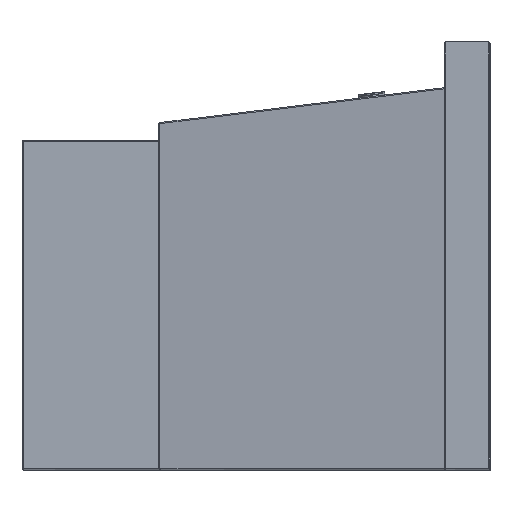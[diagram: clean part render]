
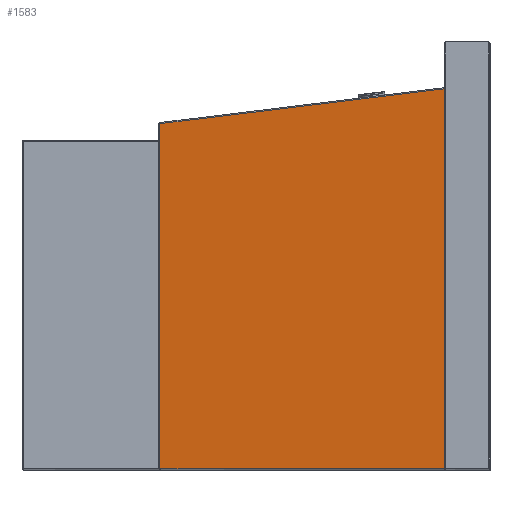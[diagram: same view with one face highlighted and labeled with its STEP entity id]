
A CAD part, left-side view. The second image highlights one B-rep face of the part: STEP entity #1583.
In plain terms, the highlighted planar face has unit normal (-0.993, 0.122, 0).
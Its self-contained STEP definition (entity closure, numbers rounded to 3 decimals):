
#250=DIRECTION('',(0.,0.,1.));
#251=VECTOR('',#250,666.015);
#252=CARTESIAN_POINT('',(-669.5,80.,-373.));
#253=LINE('',#252,#251);
#364=DIRECTION('',(0.,0.,1.));
#365=VECTOR('',#364,604.838);
#366=CARTESIAN_POINT('',(-608.323,578.244,-373.));
#367=LINE('',#366,#365);
#368=DIRECTION('',(-0.121,-0.985,0.121));
#369=VECTOR('',#368,505.7);
#370=CARTESIAN_POINT('',(-608.323,578.244,231.838));
#371=LINE('',#370,#369);
#372=DIRECTION('',(-0.122,-0.993,0.));
#373=VECTOR('',#372,501.985);
#374=CARTESIAN_POINT('',(-608.323,578.244,-373.));
#375=LINE('',#374,#373);
#961=CARTESIAN_POINT('',(-608.323,578.244,-373.));
#962=CARTESIAN_POINT('',(-608.323,578.244,231.838));
#963=VERTEX_POINT('',#961);
#964=VERTEX_POINT('',#962);
#967=CARTESIAN_POINT('',(-669.5,80.,-373.));
#968=VERTEX_POINT('',#967);
#1013=CARTESIAN_POINT('',(-669.5,80.,293.015));
#1014=VERTEX_POINT('',#1013);
#1570=CARTESIAN_POINT('',(-669.5,80.,-397.294));
#1571=DIRECTION('',(-0.993,0.122,0.));
#1572=DIRECTION('',(0.,0.,1.));
#1573=AXIS2_PLACEMENT_3D('',#1570,#1571,#1572);
#1574=PLANE('',#1573);
#1576=ORIENTED_EDGE('',*,*,#1575,.T.);
#1577=ORIENTED_EDGE('',*,*,#1555,.T.);
#1578=ORIENTED_EDGE('',*,*,#1351,.F.);
#1580=ORIENTED_EDGE('',*,*,#1579,.F.);
#1581=EDGE_LOOP('',(#1576,#1577,#1578,#1580));
#1582=FACE_OUTER_BOUND('',#1581,.F.);
#1351=EDGE_CURVE('',#968,#1014,#253,.T.);
#1555=EDGE_CURVE('',#964,#1014,#371,.T.);
#1575=EDGE_CURVE('',#963,#964,#367,.T.);
#1579=EDGE_CURVE('',#963,#968,#375,.T.);
#1583=ADVANCED_FACE('',(#1582),#1574,.T.);
